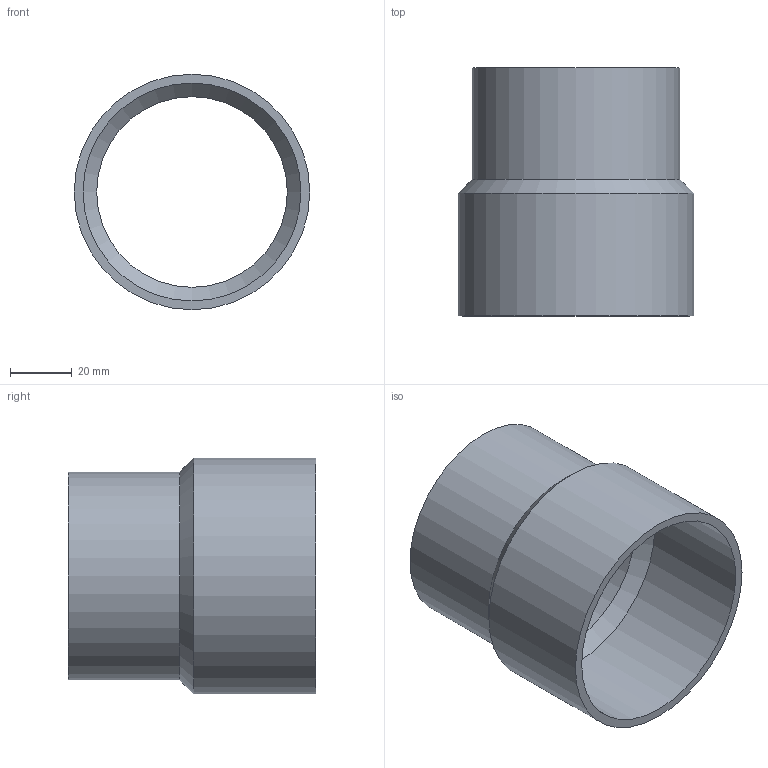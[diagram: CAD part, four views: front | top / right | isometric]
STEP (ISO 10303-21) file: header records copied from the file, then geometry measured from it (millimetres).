
FILE_DESCRIPTION(/* description */ (''),/* implementation_level */ '2;1');
FILE_NAME(/* name */ 'P:\Adapter\A 67a_70i.stp',/* time_stamp */ '2017-10-05T08:12:34+02:00',/* author */ ('neufeld'),/* organization */ (''),/* preprocessor_version */ 'ST-DEVELOPER v16.1',/* originating_system */ 'Autodesk Inventor 2016',/* authorisation */ '');
FILE_SCHEMA (('CONFIG_CONTROL_DESIGN','AUTOMOTIVE_DESIGN { 1 0 10303 214 3 1 1 }'));
Length unit declared in the file: millimetre
Products named in the file (2): A 67a_70i; A 67a_70i_1
Assembly tree (1 placements, depth 2):
  A 67a_70i_1
    A 67a_70i
Bounding box: 76 x 80 x 76 mm (x, y, z)
Volume: 50895.8 mm3; surface area: 36565.8 mm2
Topology: 1 solids, 1 shells, 8 faces, 14 edges, 8 vertices
Faces by surface type: cylinder 4, plane 2, cone 2
Full cylindrical faces by diameter (mm): 61.5 x1, 67 x1, 70.3 x1, 76 x1
Entity records: 212 total; most frequent: DIRECTION 38, CARTESIAN_POINT 27, AXIS2_PLACEMENT_3D 19, EDGE_LOOP 16, ORIENTED_EDGE 16, FACE_BOUND 8, FACE_OUTER_BOUND 8, CIRCLE 8
